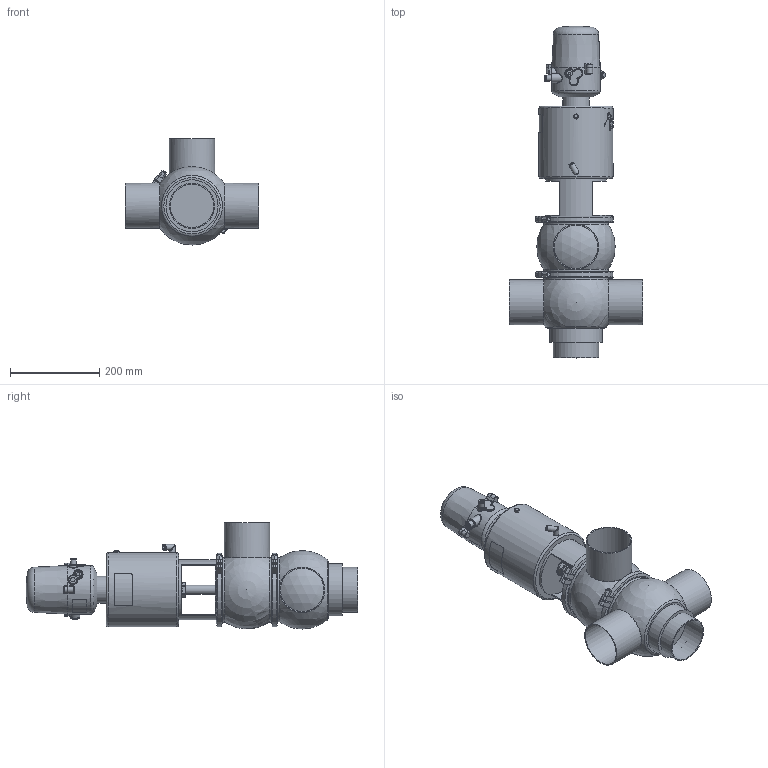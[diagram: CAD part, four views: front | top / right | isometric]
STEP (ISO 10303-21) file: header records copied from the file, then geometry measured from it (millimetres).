
FILE_DESCRIPTION (( 'STEP AP214' ), '1' );
FILE_NAME ('INNOVA K F W OD 4 T4 AS NC & C-TOP S_10.240.16.0079.STEP', '2024-08-06T09:13:11', ( '' ), ( '' ), 'SwSTEP 2.0', 'SolidWorks 2023', '' );
FILE_SCHEMA (( 'AUTOMOTIVE_DESIGN' ));
Length unit declared in the file: millimetre
Products named in the file (8): 10.240.15.0017_Estàndard; 10.240.15.0006_OD 4"; 10.426.15.0001_C-TOP S - 1 EV; 10.240.15.0003_OD 4"; 10.240.15.0001_DN 100; INNOVA K F W OD 4 T4 AS NC & C-TOP S_10.240.16.0079; 10.240.15.0010_DN 100; 10.240.15.0014_T4 AS P0
Assembly tree (8 placements, depth 2):
  INNOVA K F W OD 4 T4 AS NC & C-TOP S_10.240.16.0079
    10.240.15.0006_OD 4"
    10.240.15.0003_OD 4"
    10.240.15.0010_DN 100
    10.240.15.0014_T4 AS P0
    10.240.15.0017_Estàndard
    10.426.15.0001_C-TOP S - 1 EV
    10.240.15.0001_DN 100  x2
Bounding box: 300 x 744.5 x 238 mm (x, y, z)
Volume: 10802028.8 mm3; surface area: 766161.7 mm2
Topology: 8 solids, 8 shells, 1176 faces, 2848 edges, 1896 vertices
Faces by surface type: plane 411, cylinder 358, cone 201, bspline 160, torus 37, sphere 9
Full cylindrical faces by diameter (mm): 0.371 x17, 0.512 x16, 0.658 x16, 0.795 x16, 0.94 x15, 1.098 x15, 1.241 x13, 1.382 x13, 1.523 x11, 1.669 x10, 2.201 x1, 4 x2, 5.5 x2, 6 x2, 6.15 x1, 8 x6, 8.5 x1, 10 x1, 10.5 x1, 11 x2, 12.5 x3, 13 x2, 13.5 x2, 16 x1, 17 x3, 20 x3, 20.5 x1, 22 x2, 31 x1, 34.5 x3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
Entity records: 58178 total; most frequent: CARTESIAN_POINT 27891, ORIENTED_EDGE 4528, DIRECTION 3667, EDGE_CURVE 2264, VERTEX_POINT 1611, EDGE_LOOP 1575, AXIS2_PLACEMENT_3D 1505, FACE_OUTER_BOUND 1336
